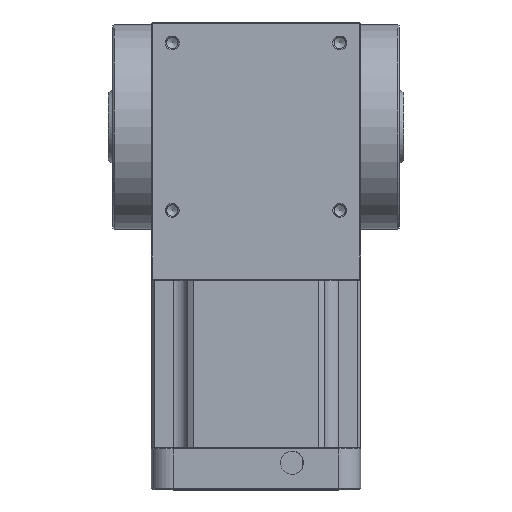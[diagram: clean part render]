
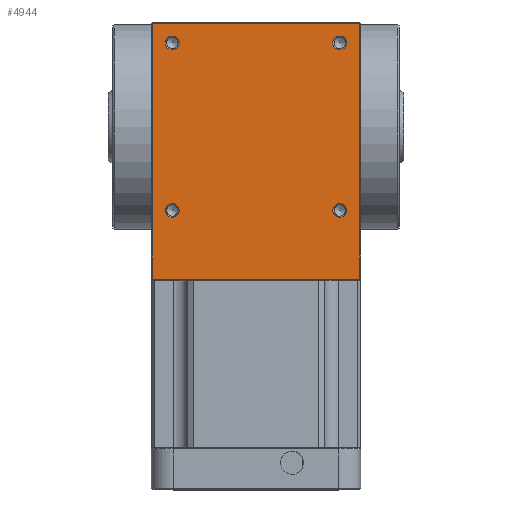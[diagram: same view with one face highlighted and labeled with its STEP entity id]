
A CAD part, top view. The second image highlights one B-rep face of the part: STEP entity #4944.
In plain terms, the highlighted planar face has unit normal (0, 0, 1).
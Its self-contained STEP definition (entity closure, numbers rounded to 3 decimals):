
#4272=CARTESIAN_POINT('',(44.5,-65.5,45.0));
#4273=VERTEX_POINT('',#4272);
#4328=CARTESIAN_POINT('',(44.5,44.5,45.0));
#4329=VERTEX_POINT('',#4328);
#4380=CARTESIAN_POINT('',(-44.5,-65.5,45.0));
#4381=VERTEX_POINT('',#4380);
#4412=CARTESIAN_POINT('',(-44.5,44.5,45.0));
#4413=VERTEX_POINT('',#4412);
#4465=CARTESIAN_POINT('',(-44.5,-65.5,45.0));
#4466=DIRECTION('',(0.0,1.0,0.0));
#4467=VECTOR('',#4466,110.0);
#4468=LINE('',#4465,#4467);
#4469=EDGE_CURVE('',#4381,#4413,#4468,.T.);
#4487=CARTESIAN_POINT('',(-44.5,44.5,45.0));
#4488=DIRECTION('',(1.0,0.0,0.0));
#4489=VECTOR('',#4488,89.);
#4490=LINE('',#4487,#4489);
#4491=EDGE_CURVE('',#4413,#4329,#4490,.T.);
#4537=CARTESIAN_POINT('',(44.5,-65.5,45.0));
#4538=DIRECTION('',(-1.0,0.0,0.0));
#4539=VECTOR('',#4538,89.);
#4540=LINE('',#4537,#4539);
#4541=EDGE_CURVE('',#4273,#4381,#4540,.T.);
#4559=CARTESIAN_POINT('',(44.5,44.5,45.0));
#4560=DIRECTION('',(0.0,-1.0,0.0));
#4561=VECTOR('',#4560,110.0);
#4562=LINE('',#4559,#4561);
#4563=EDGE_CURVE('',#4329,#4273,#4562,.T.);
#4889=CARTESIAN_POINT('',(0.,0.,45.0));
#4890=DIRECTION('',(0.0,0.0,1.0));
#4891=DIRECTION('',(1.0,0.0,0.0));
#4892=AXIS2_PLACEMENT_3D('',#4889,#4890,#4891);
#4893=PLANE('',#4892);
#4894=ORIENTED_EDGE('',*,*,#4469,.F.);
#4895=ORIENTED_EDGE('',*,*,#4541,.F.);
#4896=ORIENTED_EDGE('',*,*,#4563,.F.);
#4897=ORIENTED_EDGE('',*,*,#4491,.F.);
#4898=EDGE_LOOP('',(#4894,#4895,#4896,#4897));
#4899=FACE_OUTER_BOUND('',#4898,.T.);
#4900=CARTESIAN_POINT('',(33.042,-36.0,45.0));
#4901=VERTEX_POINT('',#4900);
#4902=CARTESIAN_POINT('',(36.,-36.0,45.0));
#4903=DIRECTION('',(0.0,0.0,1.0));
#4904=DIRECTION('',(1.0,0.0,0.0));
#4905=AXIS2_PLACEMENT_3D('',#4902,#4903,#4904);
#4906=CIRCLE('',#4905,2.958);
#4907=EDGE_CURVE('',#4901,#4901,#4906,.T.);
#4908=ORIENTED_EDGE('',*,*,#4907,.F.);
#4909=EDGE_LOOP('',(#4908));
#4910=FACE_BOUND('',#4909,.T.);
#4911=CARTESIAN_POINT('',(-33.042,-36.,45.0));
#4912=VERTEX_POINT('',#4911);
#4913=CARTESIAN_POINT('',(-36.,-36.,45.0));
#4914=DIRECTION('',(0.0,0.0,1.0));
#4915=DIRECTION('',(-1.0,0.0,0.0));
#4916=AXIS2_PLACEMENT_3D('',#4913,#4914,#4915);
#4917=CIRCLE('',#4916,2.958);
#4918=EDGE_CURVE('',#4912,#4912,#4917,.T.);
#4919=ORIENTED_EDGE('',*,*,#4918,.F.);
#4920=EDGE_LOOP('',(#4919));
#4921=FACE_BOUND('',#4920,.T.);
#4922=CARTESIAN_POINT('',(-33.042,36.,45.0));
#4923=VERTEX_POINT('',#4922);
#4924=CARTESIAN_POINT('',(-36.,36.,45.0));
#4925=DIRECTION('',(0.0,0.0,1.0));
#4926=DIRECTION('',(-1.0,0.0,0.0));
#4927=AXIS2_PLACEMENT_3D('',#4924,#4925,#4926);
#4928=CIRCLE('',#4927,2.958);
#4929=EDGE_CURVE('',#4923,#4923,#4928,.T.);
#4930=ORIENTED_EDGE('',*,*,#4929,.F.);
#4931=EDGE_LOOP('',(#4930));
#4932=FACE_BOUND('',#4931,.T.);
#4933=CARTESIAN_POINT('',(33.042,36.0,45.0));
#4934=VERTEX_POINT('',#4933);
#4935=CARTESIAN_POINT('',(36.,36.0,45.0));
#4936=DIRECTION('',(0.0,0.0,1.0));
#4937=DIRECTION('',(1.0,0.0,0.0));
#4938=AXIS2_PLACEMENT_3D('',#4935,#4936,#4937);
#4939=CIRCLE('',#4938,2.958);
#4940=EDGE_CURVE('',#4934,#4934,#4939,.T.);
#4941=ORIENTED_EDGE('',*,*,#4940,.F.);
#4942=EDGE_LOOP('',(#4941));
#4943=FACE_BOUND('',#4942,.T.);
#4944=ADVANCED_FACE('',(#4899,#4910,#4921,#4932,#4943),#4893,.T.);
